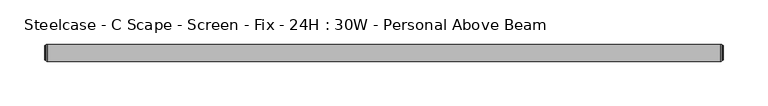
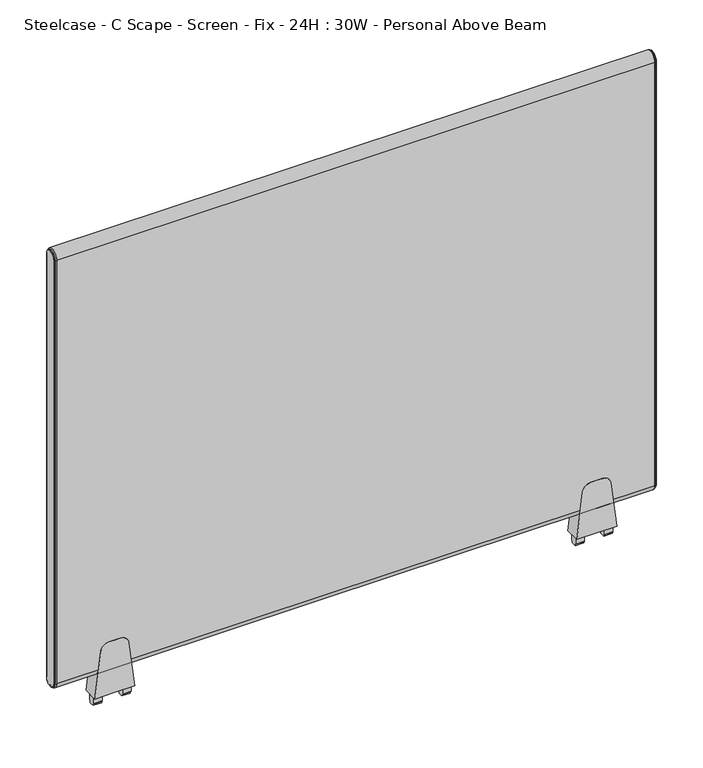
"""IFC4 building model written with IfcOpenShell, lengths in millimetres: furniture geometry, Steelcase - C Scape - Screen - Fix - 24H : 30W - Personal Above Beam."""

from ifc_helpers import new_model, si_unit, point, frame, frame_2d, origin, place, context, project, spatial, polyline, circle_curve, ellipse_curve, trimmed, segment, composite_curve, outline, extrude, source, transform, mapped, element, save
from ifc_brep_helpers import plane_surface, cylinder_surface, revolved_surface, advanced_brep


def steelcase_c_scape_screen_fix_24h_30w_personal_above_beam_ee0ebf63(model_context):
    return source(origin(), model_context, "Body", "SolidModel", [
        extrude(outline(composite_curve([segment(polyline([(609.511112, 101.4730434), (669.8362421, 94.0661495)]), True, "CONTINUOUS"), segment(trimmed(circle_curve(frame_2d((668.5143718, 83.300233)), 10.8467645), [point((669.8362421, 94.0661495))], [point((679.3611362, 83.300233))], False, "CARTESIAN"), True, "CONTINUOUS"), segment(polyline([(679.3611362, 83.300233), (679.3611362, 76.2001674), (679.3611362, 69.1001018)]), True, "CONTINUOUS"), segment(trimmed(circle_curve(frame_2d((668.5143718, 69.1001018)), 10.8467645), [point((679.3611362, 69.1001018))], [point((669.8362421, 58.3341853))], False, "CARTESIAN"), True, "CONTINUOUS"), segment(polyline([(669.8362421, 58.3341853), (609.511112, 50.9272915), (609.511112, 76.2001674), (609.511112, 101.4730434)]), True, "CONTINUOUS")], self_intersect=False)), frame((0.0, -9.525, 0.0), z_axis=(0.0, 1.0, 0.0), x_axis=(0.0, 0.0, 1.0)), (0.0, 0.0, 1.0), 19.05),
        extrude(outline(polyline([(4.5465975, 609.511112), (4.5465975, 599.6051033), (4.0139265, 598.7186748), (2.9972008, 598.7186748), (2.9972008, 596.4834188), (0.0, 596.392), (-2.9972008, 596.4834188), (-2.9972008, 598.7186748), (-4.0139265, 598.7186748), (-4.5465975, 599.6051033), (-4.5465975, 609.511112), (0.0, 609.511112), (4.5465975, 609.511112)])), frame((88.9267162, 0.0, 0.0), z_axis=(1.0, 0.0, 0.0), x_axis=(0.0, 1.0, 0.0)), (0.0, 0.0, 1.0), 10.7813187),
        extrude(outline(polyline([(4.5465975, 609.511112), (4.5465975, 599.6051033), (4.0139265, 598.7186748), (2.9972008, 598.7186748), (2.9972008, 596.4834188), (0.0, 596.392), (-2.9972008, 596.4834188), (-2.9972008, 598.7186748), (-4.0139265, 598.7186748), (-4.5465975, 599.6051033), (-4.5465975, 609.511112), (0.0, 609.511112), (4.5465975, 609.511112)])), frame((52.6923, 0.0, 0.0), z_axis=(1.0, 0.0, 0.0), x_axis=(0.0, 1.0, 0.0)), (0.0, 0.0, 1.0), 10.7813187),
        extrude(outline(composite_curve([segment(polyline([(609.511112, 710.3107132), (669.8362421, 702.9038193)]), True, "CONTINUOUS"), segment(trimmed(circle_curve(frame_2d((668.5143718, 692.1379028)), 10.8467645), [point((669.8362421, 702.9038193))], [point((679.3611362, 692.1379028))], False, "CARTESIAN"), True, "CONTINUOUS"), segment(polyline([(679.3611362, 692.1379028), (679.3611362, 685.0378372), (679.3611362, 677.9377716)]), True, "CONTINUOUS"), segment(trimmed(circle_curve(frame_2d((668.5143718, 677.9377716)), 10.8467645), [point((679.3611362, 677.9377716))], [point((669.8362421, 667.1718551))], False, "CARTESIAN"), True, "CONTINUOUS"), segment(polyline([(669.8362421, 667.1718551), (609.511112, 659.7649612), (609.511112, 685.0378372), (609.511112, 710.3107132)]), True, "CONTINUOUS")], self_intersect=False)), frame((0.0, -9.525, 0.0), z_axis=(0.0, 1.0, 0.0), x_axis=(0.0, 0.0, 1.0)), (0.0, 0.0, 1.0), 19.05),
        extrude(outline(polyline([(4.5465975, 609.511112), (4.5465975, 599.6051033), (4.0139265, 598.7186748), (2.9972008, 598.7186748), (2.9972008, 596.4834188), (0.0, 596.392), (-2.9972008, 596.4834188), (-2.9972008, 598.7186748), (-4.0139265, 598.7186748), (-4.5465975, 599.6051033), (-4.5465975, 609.511112), (0.0, 609.511112), (4.5465975, 609.511112)])), frame((697.764386, 0.0, 0.0), z_axis=(1.0, 0.0, 0.0), x_axis=(0.0, 1.0, 0.0)), (0.0, 0.0, 1.0), 10.7813187),
        extrude(outline(polyline([(4.5465975, 609.511112), (4.5465975, 599.6051033), (4.0139265, 598.7186748), (2.9972008, 598.7186748), (2.9972008, 596.4834188), (0.0, 596.392), (-2.9972008, 596.4834188), (-2.9972008, 598.7186748), (-4.0139265, 598.7186748), (-4.5465975, 599.6051033), (-4.5465975, 609.511112), (0.0, 609.511112), (4.5465975, 609.511112)])), frame((661.5299698, 0.0, 0.0), z_axis=(1.0, 0.0, 0.0), x_axis=(0.0, 1.0, 0.0)), (0.0, 0.0, 1.0), 10.7813187),
        advanced_brep(
        [(758.4486613, -9.525, 1211.707), (758.4486613, 9.525, 1211.707), (758.4486613, 9.525, 646.557), (758.4486613, -9.525, 646.557), (761.2426613, 7.4929583, 1211.707), (761.2426613, -7.4929583, 1211.707), (761.2426613, -7.4929583, 646.557), (761.2426613, 7.4929583, 646.557), (760.7346545, -8.0009651, 1211.707), (760.7346545, 8.0009651, 1211.707), (759.4646613, 8.0009651, 1211.707), (759.4646613, -8.0009651, 1211.707), (759.4646613, -8.8204932, 1211.707), (759.4646613, 8.8204932, 1211.707), (759.4646613, -8.0009651, 646.557), (760.7346545, -8.0009651, 646.557), (759.4646613, -8.8204932, 646.557), (759.4646613, 8.0009651, 646.557), (760.7346545, 8.0009651, 646.557), (759.4646613, 8.8204932, 646.557)],
        [
            (0, 1, circle_curve(frame((758.4486613, 0.0, 1211.707), z_axis=(-1.0, 0.0, 0.0), x_axis=(0.0, 1.0, 0.0)), 9.525)),
            (1, 2),
            (2, 3, circle_curve(frame((758.4486613, 0.0, 646.557), z_axis=(-1.0, 0.0, 0.0), x_axis=(0.0, -1.0, 0.0)), 9.525)),
            (3, 0),
            (4, 5, circle_curve(frame((761.2426613, 0.0, 1211.707), z_axis=(1.0, 0.0, 0.0), x_axis=(0.0, 1.0, 0.0)), 7.4929583)),
            (5, 6),
            (6, 7, circle_curve(frame((761.2426613, 0.0, 646.557), z_axis=(1.0, 0.0, 0.0), x_axis=(0.0, -1.0, 0.0)), 7.4929583)),
            (7, 4),
            (8, 9, circle_curve(frame((760.7346545, 0.0, 1211.707), z_axis=(-1.0, 0.0, 0.0), x_axis=(0.0, 1.0, 0.0)), 8.0009651)),
            (9, 10),
            (10, 11, circle_curve(frame((759.4646613, 0.0, 1211.707), z_axis=(1.0, 0.0, 0.0), x_axis=(0.0, 1.0, 0.0)), 8.0009651)),
            (11, 8),
            (8, 5, circle_curve(frame((760.7346545, -7.4929583, 1211.707), z_axis=(0.0, 0.0, 1.0), x_axis=(0.0, -1.0, 0.0)), 0.5080068)),
            (4, 9, circle_curve(frame((760.7346545, 7.4929583, 1211.707), z_axis=(0.0, 0.0, 1.0), x_axis=(0.0, 1.0, 0.0)), 0.5080068)),
            (12, 13, circle_curve(frame((759.4646613, 0.0, 1211.707), z_axis=(-1.0, 0.0, 0.0), x_axis=(0.0, 1.0, 0.0)), 8.8204932)),
            (13, 1, circle_curve(frame((758.3806211, 8.3420139, 1211.707), z_axis=(0.0, 0.0, 1.0), x_axis=(0.0, 1.0, 0.0)), 1.1849411)),
            (0, 12, circle_curve(frame((758.3806211, -8.3420139, 1211.707), z_axis=(0.0, 0.0, 1.0), x_axis=(0.0, -1.0, 0.0)), 1.1849411)),
            (11, 14),
            (14, 15),
            (15, 8),
            (15, 6, circle_curve(frame((760.7346545, -7.4929583, 646.557), z_axis=(0.0, 0.0, 1.0), x_axis=(0.0, -1.0, 0.0)), 0.5080068)),
            (3, 16, circle_curve(frame((758.3806211, -8.3420139, 646.557), z_axis=(0.0, 0.0, 1.0), x_axis=(0.0, -1.0, 0.0)), 1.1849411)),
            (16, 12),
            (14, 17, circle_curve(frame((759.4646613, 0.0, 646.557), z_axis=(1.0, 0.0, 0.0), x_axis=(0.0, -1.0, 0.0)), 8.0009651)),
            (17, 18),
            (18, 15, circle_curve(frame((760.7346545, 0.0, 646.557), z_axis=(-1.0, 0.0, 0.0), x_axis=(0.0, -1.0, 0.0)), 8.0009651)),
            (18, 7, circle_curve(frame((760.7346545, 7.4929583, 646.557), z_axis=(0.0, 0.0, -1.0), x_axis=(0.0, 1.0, 0.0)), 0.5080068)),
            (2, 19, circle_curve(frame((758.3806211, 8.3420139, 646.557), z_axis=(0.0, 0.0, -1.0), x_axis=(0.0, 1.0, 0.0)), 1.1849411)),
            (19, 16, circle_curve(frame((759.4646613, 0.0, 646.557), z_axis=(-1.0, 0.0, 0.0), x_axis=(0.0, -1.0, 0.0)), 8.8204932)),
            (9, 18),
            (17, 10),
            (13, 19),
        ],
        [
            plane_surface(frame((758.4486613, -6.3509705, 1211.707), z_axis=(-1.0, 0.0, 0.0), x_axis=(0.0, 0.0, 1.0))),
            plane_surface(frame((761.2426613, -6.3509705, 1211.707), z_axis=(1.0, 0.0, 0.0), x_axis=(0.0, 0.0, -1.0))),
            cylinder_surface(frame((758.4486613, 0.0, 1211.707), z_axis=(1.0, 0.0, 0.0), x_axis=(0.0, 1.0, 0.0)), 8.0009651),
            revolved_surface(trimmed(ellipse_curve(frame((760.7346545, 7.4929583, 1211.707), z_axis=(0.0, 0.0, -1.0), x_axis=(0.0, 1.0, 0.0)), 0.5080068, 0.5080068), [point((760.7346545, 8.0009651, 1211.707))], [point((761.2426613, 7.4929583, 1211.707))], True, "CARTESIAN"), (758.4486613, 0.0, 1211.707), (1.0, 0.0, 0.0)),
            revolved_surface(trimmed(ellipse_curve(frame((758.3806211, 8.3420139, 1211.707), z_axis=(0.0, 0.0, -1.0), x_axis=(0.0, 1.0, 0.0)), 1.1849411, 1.1849411), [point((758.4486613, 9.525, 1211.707))], [point((759.4646613, 8.8204932, 1211.707))], True, "CARTESIAN"), (758.4486613, 0.0, 1211.707), (1.0, 0.0, 0.0)),
            plane_surface(frame((759.4646613, -8.0009651, 1211.707), z_axis=(0.0, -1.0, 0.0), x_axis=(0.0, 0.0, -1.0))),
            cylinder_surface(frame((760.7346545, -7.4929583, 1211.707), z_axis=(0.0, 0.0, 1.0), x_axis=(0.0, -1.0, 0.0)), 0.5080068),
            cylinder_surface(frame((758.3806211, -8.3420139, 1211.707), z_axis=(0.0, 0.0, 1.0), x_axis=(0.0, -1.0, 0.0)), 1.1849411),
            cylinder_surface(frame((758.4486613, 0.0, 646.557), z_axis=(1.0, 0.0, 0.0), x_axis=(0.0, -1.0, 0.0)), 8.0009651),
            revolved_surface(trimmed(ellipse_curve(frame((760.7346545, -7.4929583, 646.557), z_axis=(0.0, 0.0, 1.0), x_axis=(0.0, -1.0, 0.0)), 0.5080068, 0.5080068), [point((760.7346545, -8.0009651, 646.557))], [point((761.2426613, -7.4929583, 646.557))], True, "CARTESIAN"), (758.4486613, 0.0, 646.557), (1.0, 0.0, 0.0)),
            revolved_surface(trimmed(ellipse_curve(frame((758.3806211, -8.3420139, 646.557), z_axis=(0.0, 0.0, 1.0), x_axis=(0.0, -1.0, 0.0)), 1.1849411, 1.1849411), [point((758.4486613, -9.525, 646.557))], [point((759.4646613, -8.8204932, 646.557))], True, "CARTESIAN"), (758.4486613, 0.0, 646.557), (1.0, 0.0, 0.0)),
            plane_surface(frame((759.4646613, 8.0009651, 646.557), z_axis=(0.0, 1.0, 0.0), x_axis=(0.0, 0.0, 1.0))),
            cylinder_surface(frame((760.7346545, 7.4929583, 646.557), z_axis=(0.0, 0.0, -1.0), x_axis=(0.0, 1.0, 0.0)), 0.5080068),
            cylinder_surface(frame((758.3806211, 8.3420139, 646.557), z_axis=(0.0, 0.0, -1.0), x_axis=(0.0, 1.0, 0.0)), 1.1849411),
            plane_surface(frame((759.4646613, 8.8204932, 646.557), z_axis=(1.0, 0.0, 0.0), x_axis=(0.0, 0.0, 1.0))),
        ],
        [
            (0, [[1, 2, 3, 4]]),
            (1, [[5, 6, 7, 8]]),
            (2, [[9, 10, 11, 12]]),
            (3, [[-9, 13, -5, 14]]),
            (4, [[15, 16, -1, 17]]),
            (5, [[-12, 18, 19, 20]]),
            (6, [[-13, -20, 21, -6]]),
            (7, [[-17, -4, 22, 23]]),
            (8, [[-19, 24, 25, 26]]),
            (9, [[-21, -26, 27, -7]]),
            (10, [[-22, -3, 28, 29]]),
            (11, [[-10, 30, -25, 31]]),
            (12, [[-14, -8, -27, -30]]),
            (13, [[-16, 32, -28, -2]]),
            (14, [[-15, -23, -29, -32], [-11, -31, -24, -18]]),
        ],
    ),
        advanced_brep(
        [(2.7940155, 9.525, 1211.707), (2.7940155, -9.525, 1211.707), (2.7940155, -9.525, 646.557), (2.7940155, 9.525, 646.557), (0.0, -7.4929583, 1211.707), (0.0, 7.4929583, 1211.707), (0.0, 7.4929583, 646.557), (0.0, -7.4929583, 646.557), (1.778, 8.8204932, 1211.707), (1.778, -8.8204932, 1211.707), (0.5080068, -8.0009651, 1211.707), (0.5080068, 8.0009651, 1211.707), (1.778, -8.0009651, 1211.707), (1.778, 8.0009651, 1211.707), (1.778, -8.8204932, 646.557), (0.5080068, -8.0009651, 646.557), (1.778, -8.0009651, 646.557), (1.778, 8.8204932, 646.557), (0.5080068, 8.0009651, 646.557), (1.778, 8.0009651, 646.557)],
        [
            (0, 1, circle_curve(frame((2.7940155, 0.0, 1211.707), z_axis=(1.0, 0.0, 0.0), x_axis=(0.0, 1.0, 0.0)), 9.525)),
            (1, 2),
            (2, 3, circle_curve(frame((2.7940155, 0.0, 646.557), z_axis=(1.0, 0.0, 0.0), x_axis=(0.0, -1.0, 0.0)), 9.525)),
            (3, 0),
            (4, 5, circle_curve(frame((0.0, 0.0, 1211.707), z_axis=(-1.0, 0.0, 0.0), x_axis=(0.0, 1.0, 0.0)), 7.4929583)),
            (5, 6),
            (6, 7, circle_curve(frame((0.0, 0.0, 646.557), z_axis=(-1.0, 0.0, 0.0), x_axis=(0.0, -1.0, 0.0)), 7.4929583)),
            (7, 4),
            (0, 8, circle_curve(frame((2.8620402, 8.3420139, 1211.707), z_axis=(0.0, 0.0, 1.0), x_axis=(0.0, -1.0, 0.0)), 1.1849411)),
            (8, 9, circle_curve(frame((1.778, 0.0, 1211.707), z_axis=(1.0, 0.0, 0.0), x_axis=(0.0, 1.0, 0.0)), 8.8204932)),
            (9, 1, circle_curve(frame((2.8620402, -8.3420139, 1211.707), z_axis=(0.0, 0.0, 1.0), x_axis=(0.0, 1.0, 0.0)), 1.1849411)),
            (10, 11, circle_curve(frame((0.5080068, 0.0, 1211.707), z_axis=(-1.0, 0.0, 0.0), x_axis=(0.0, 1.0, 0.0)), 8.0009651)),
            (11, 5, circle_curve(frame((0.5080068, 7.4929583, 1211.707), z_axis=(0.0, 0.0, 1.0), x_axis=(0.0, -1.0, 0.0)), 0.5080068)),
            (4, 10, circle_curve(frame((0.5080068, -7.4929583, 1211.707), z_axis=(0.0, 0.0, 1.0), x_axis=(0.0, 1.0, 0.0)), 0.5080068)),
            (10, 12),
            (12, 13, circle_curve(frame((1.778, 0.0, 1211.707), z_axis=(-1.0, 0.0, 0.0), x_axis=(0.0, 1.0, 0.0)), 8.0009651)),
            (13, 11),
            (9, 14),
            (14, 2, circle_curve(frame((2.8620402, -8.3420139, 646.557), z_axis=(0.0, 0.0, 1.0), x_axis=(0.0, 1.0, 0.0)), 1.1849411)),
            (7, 15, circle_curve(frame((0.5080068, -7.4929583, 646.557), z_axis=(0.0, 0.0, 1.0), x_axis=(0.0, 1.0, 0.0)), 0.5080068)),
            (15, 10),
            (15, 16),
            (16, 12),
            (14, 17, circle_curve(frame((1.778, 0.0, 646.557), z_axis=(1.0, 0.0, 0.0), x_axis=(0.0, -1.0, 0.0)), 8.8204932)),
            (17, 3, circle_curve(frame((2.8620402, 8.3420139, 646.557), z_axis=(0.0, 0.0, -1.0), x_axis=(0.0, -1.0, 0.0)), 1.1849411)),
            (6, 18, circle_curve(frame((0.5080068, 7.4929583, 646.557), z_axis=(0.0, 0.0, -1.0), x_axis=(0.0, -1.0, 0.0)), 0.5080068)),
            (18, 15, circle_curve(frame((0.5080068, 0.0, 646.557), z_axis=(-1.0, 0.0, 0.0), x_axis=(0.0, -1.0, 0.0)), 8.0009651)),
            (18, 19),
            (19, 16, circle_curve(frame((1.778, 0.0, 646.557), z_axis=(-1.0, 0.0, 0.0), x_axis=(0.0, -1.0, 0.0)), 8.0009651)),
            (8, 17),
            (19, 13),
            (11, 18),
        ],
        [
            plane_surface(frame((2.7940155, -6.3509705, 1211.707), z_axis=(1.0, 0.0, 0.0), x_axis=(0.0, 0.0, -1.0))),
            plane_surface(frame((0.0, -6.3509705, 1211.707), z_axis=(-1.0, 0.0, 0.0), x_axis=(0.0, 0.0, 1.0))),
            revolved_surface(trimmed(ellipse_curve(frame((2.8620402, 8.3420139, 1211.707), z_axis=(0.0, 0.0, -1.0), x_axis=(0.0, -1.0, 0.0)), 1.1849411, 1.1849411), [point((1.778, 8.8204932, 1211.707))], [point((2.794, 9.525, 1211.707))], True, "CARTESIAN"), (2.794, 0.0, 1211.707), (1.0, 0.0, 0.0)),
            revolved_surface(trimmed(ellipse_curve(frame((0.5080068, 7.4929583, 1211.707), z_axis=(0.0, 0.0, -1.0), x_axis=(0.0, -1.0, 0.0)), 0.5080068, 0.5080068), [point((0.0, 7.4929583, 1211.707))], [point((0.5080068, 8.0009651, 1211.707))], True, "CARTESIAN"), (2.794, 0.0, 1211.707), (1.0, 0.0, 0.0)),
            cylinder_surface(frame((2.794, 0.0, 1211.707), z_axis=(1.0, 0.0, 0.0), x_axis=(0.0, 1.0, 0.0)), 8.0009651),
            cylinder_surface(frame((2.8620402, -8.3420139, 1211.707), z_axis=(0.0, 0.0, 1.0), x_axis=(0.0, 1.0, 0.0)), 1.1849411),
            cylinder_surface(frame((0.5080068, -7.4929583, 1211.707), z_axis=(0.0, 0.0, 1.0), x_axis=(0.0, 1.0, 0.0)), 0.5080068),
            plane_surface(frame((0.5080068, -8.0009651, 1211.707), z_axis=(0.0, -1.0, 0.0), x_axis=(0.0, 0.0, -1.0))),
            revolved_surface(trimmed(ellipse_curve(frame((2.8620402, -8.3420139, 646.557), z_axis=(0.0, 0.0, 1.0), x_axis=(0.0, 1.0, 0.0)), 1.1849411, 1.1849411), [point((1.778, -8.8204932, 646.557))], [point((2.794, -9.525, 646.557))], True, "CARTESIAN"), (2.794, 0.0, 646.557), (1.0, 0.0, 0.0)),
            revolved_surface(trimmed(ellipse_curve(frame((0.5080068, -7.4929583, 646.557), z_axis=(0.0, 0.0, 1.0), x_axis=(0.0, 1.0, 0.0)), 0.5080068, 0.5080068), [point((0.0, -7.4929583, 646.557))], [point((0.5080068, -8.0009651, 646.557))], True, "CARTESIAN"), (2.794, 0.0, 646.557), (1.0, 0.0, 0.0)),
            cylinder_surface(frame((2.794, 0.0, 646.557), z_axis=(1.0, 0.0, 0.0), x_axis=(0.0, -1.0, 0.0)), 8.0009651),
            plane_surface(frame((1.778, 8.0009651, 646.557), z_axis=(-1.0, 0.0, 0.0), x_axis=(0.0, 0.0, 1.0))),
            cylinder_surface(frame((2.8620402, 8.3420139, 646.557), z_axis=(0.0, 0.0, -1.0), x_axis=(0.0, -1.0, 0.0)), 1.1849411),
            cylinder_surface(frame((0.5080068, 7.4929583, 646.557), z_axis=(0.0, 0.0, -1.0), x_axis=(0.0, -1.0, 0.0)), 0.5080068),
            plane_surface(frame((0.5080068, 8.0009651, 646.557), z_axis=(0.0, 1.0, 0.0), x_axis=(0.0, 0.0, 1.0))),
        ],
        [
            (0, [[1, 2, 3, 4]]),
            (1, [[5, 6, 7, 8]]),
            (2, [[-1, 9, 10, 11]]),
            (3, [[12, 13, -5, 14]]),
            (4, [[-12, 15, 16, 17]]),
            (5, [[-11, 18, 19, -2]]),
            (6, [[-14, -8, 20, 21]]),
            (7, [[-15, -21, 22, 23]]),
            (8, [[-19, 24, 25, -3]]),
            (9, [[-20, -7, 26, 27]]),
            (10, [[-22, -27, 28, 29]]),
            (11, [[-10, 30, -24, -18], [-16, -23, -29, 31]]),
            (12, [[-9, -4, -25, -30]]),
            (13, [[-13, 32, -26, -6]]),
            (14, [[-17, -31, -28, -32]]),
        ],
    ),
        extrude(outline(composite_curve([segment(trimmed(circle_curve(frame_2d((0.0, 1211.707)), 9.525), [point((-9.525, 1211.707))], [point((9.525, 1211.707))], False, "CARTESIAN"), True, "CONTINUOUS"), segment(polyline([(9.525, 1211.707), (9.525, 646.557)]), True, "CONTINUOUS"), segment(trimmed(circle_curve(frame_2d((0.0, 646.557)), 9.525), [point((9.525, 646.557))], [point((-9.525, 646.557))], False, "CARTESIAN"), True, "CONTINUOUS"), segment(polyline([(-9.525, 646.557), (-9.525, 1211.707)]), True, "CONTINUOUS")], self_intersect=False)), frame((2.794, 0.0, 0.0), z_axis=(1.0, 0.0, 0.0), x_axis=(0.0, 1.0, 0.0)), (0.0, 0.0, 1.0), 755.6546613),
    ])


if __name__ == "__main__":
    model = new_model("IFC4")
    model_context = context("Model", 3, world=origin())
    ifc_project = project(units=[si_unit("LENGTHUNIT", "METRE", prefix="MILLI")], contexts=[model_context])
    site = spatial("IfcSite", under=ifc_project)
    building = spatial("IfcBuilding", under=site)
    placement = place(None, origin())
    steelcase_c_scape_screen_fix_24h_30w_personal_above_beam_shape = steelcase_c_scape_screen_fix_24h_30w_personal_above_beam_ee0ebf63(model_context)
    element("IfcFurniture", 1, ObjectType="Steelcase - C Scape - Screen - Fix - 24H : 30W - Personal Above Beam", at=placement, inside=building, context=model_context, shape_type="MappedRepresentation", body=[
        mapped(steelcase_c_scape_screen_fix_24h_30w_personal_above_beam_shape, transform((0.0, 0.0, 0.0), x_axis=(1.0, 0.0, 0.0), y_axis=(0.0, 1.0, 0.0), z_axis=(0.0, 0.0, 1.0))),
    ])
    save(model, "model.ifc")
